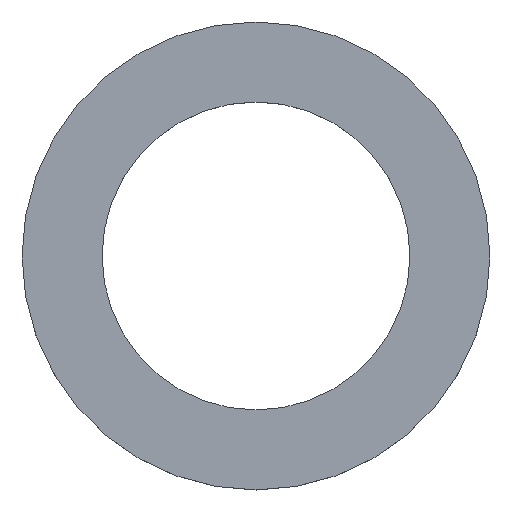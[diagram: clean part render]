
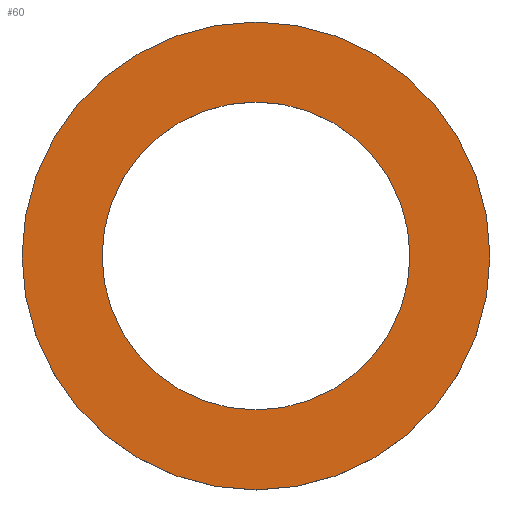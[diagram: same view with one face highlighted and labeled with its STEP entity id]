
A CAD part, top view. The second image highlights one B-rep face of the part: STEP entity #60.
In plain terms, the highlighted planar face has unit normal (0, 0, 1).
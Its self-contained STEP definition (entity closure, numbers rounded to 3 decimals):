
#54=FACE_BOUND('',#72,.F.);
#56=PLANE('',#154);
#60=ADVANCED_FACE('',(#54,#66),#56,.T.);
#66=FACE_OUTER_BOUND('',#73,.F.);
#72=EDGE_LOOP('',(#86,#87));
#73=EDGE_LOOP('',(#88,#89));
#86=ORIENTED_EDGE('',*,*,#122,.T.);
#87=ORIENTED_EDGE('',*,*,#114,.T.);
#88=ORIENTED_EDGE('',*,*,#125,.F.);
#89=ORIENTED_EDGE('',*,*,#117,.F.);
#114=EDGE_CURVE('',#141,#140,#126,.T.);
#117=EDGE_CURVE('',#135,#134,#129,.T.);
#122=EDGE_CURVE('',#140,#141,#130,.T.);
#125=EDGE_CURVE('',#134,#135,#133,.T.);
#126=CIRCLE('',#144,3.175);
#129=CIRCLE('',#147,4.825);
#130=CIRCLE('',#148,3.175);
#133=CIRCLE('',#151,4.825);
#134=VERTEX_POINT('',#196);
#135=VERTEX_POINT('',#197);
#140=VERTEX_POINT('',#202);
#141=VERTEX_POINT('',#203);
#144=AXIS2_PLACEMENT_3D('',#204,#161,#162);
#147=AXIS2_PLACEMENT_3D('',#207,#167,#168);
#148=AXIS2_PLACEMENT_3D('',#212,#173,#174);
#151=AXIS2_PLACEMENT_3D('',#215,#179,#180);
#154=AXIS2_PLACEMENT_3D('',#218,#185,#186);
#161=DIRECTION('',(0.,0.,1.));
#162=DIRECTION('',(0.,1.,0.));
#167=DIRECTION('',(0.,0.,1.));
#168=DIRECTION('',(0.,1.,0.));
#173=DIRECTION('',(0.,0.,1.));
#174=DIRECTION('',(0.,-1.,0.));
#179=DIRECTION('',(0.,0.,1.));
#180=DIRECTION('',(0.,-1.,0.));
#185=DIRECTION('',(0.,0.,1.));
#186=DIRECTION('',(1.,0.,0.));
#196=CARTESIAN_POINT('',(0.,-4.825,0.));
#197=CARTESIAN_POINT('',(0.,4.825,0.));
#202=CARTESIAN_POINT('',(0.,-3.175,0.));
#203=CARTESIAN_POINT('',(0.,3.175,0.));
#204=CARTESIAN_POINT('',(0.,0.,0.));
#207=CARTESIAN_POINT('',(0.,0.,0.));
#212=CARTESIAN_POINT('',(0.,0.,0.));
#215=CARTESIAN_POINT('',(0.,0.,0.));
#218=CARTESIAN_POINT('',(-4.922,-4.922,0.));
